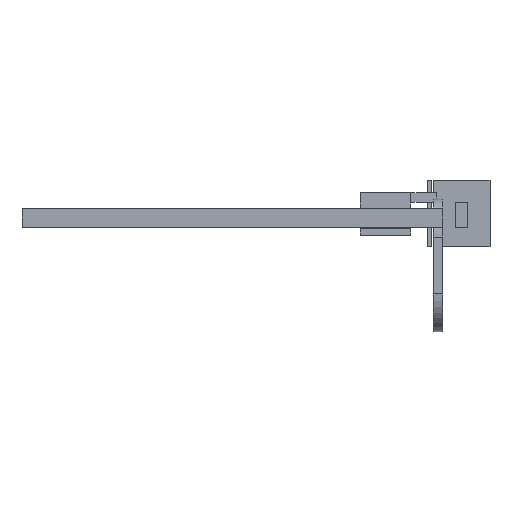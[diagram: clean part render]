
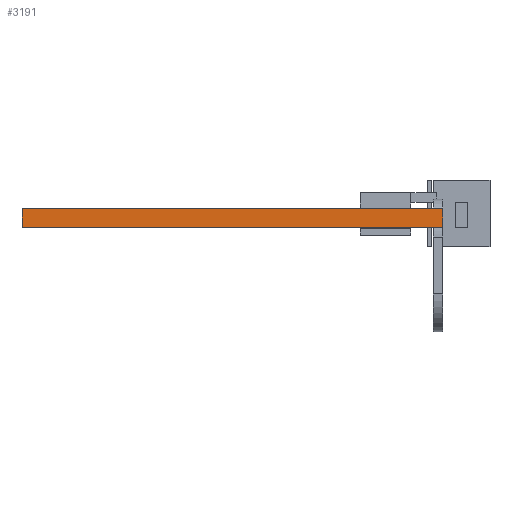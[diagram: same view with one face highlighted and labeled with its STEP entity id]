
A CAD part, left-side view. The second image highlights one B-rep face of the part: STEP entity #3191.
In plain terms, the highlighted planar face has unit normal (-1, 0, 0).
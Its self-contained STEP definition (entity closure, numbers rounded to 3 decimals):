
#2584 = VERTEX_POINT('',#2585);
#2585 = CARTESIAN_POINT('',(-72.5,0.,18.));
#2591 = EDGE_CURVE('',#2592,#2584,#2594,.T.);
#2592 = VERTEX_POINT('',#2593);
#2593 = CARTESIAN_POINT('',(-72.5,0.,12.));
#2594 = LINE('',#2595,#2596);
#2595 = CARTESIAN_POINT('',(-72.5,0.,12.));
#2596 = VECTOR('',#2597,1.);
#2597 = DIRECTION('',(0.,0.,1.));
#3165 = VERTEX_POINT('',#3166);
#3166 = CARTESIAN_POINT('',(-72.5,133.,12.));
#3172 = EDGE_CURVE('',#3165,#3173,#3175,.T.);
#3173 = VERTEX_POINT('',#3174);
#3174 = CARTESIAN_POINT('',(-72.5,133.,18.));
#3175 = LINE('',#3176,#3177);
#3176 = CARTESIAN_POINT('',(-72.5,133.,12.));
#3177 = VECTOR('',#3178,1.);
#3178 = DIRECTION('',(0.,0.,1.));
#3191 = ADVANCED_FACE('',(#3192),#3208,.F.);
#3192 = FACE_BOUND('',#3193,.F.);
#3193 = EDGE_LOOP('',(#3194,#3195,#3201,#3202));
#3194 = ORIENTED_EDGE('',*,*,#2591,.F.);
#3195 = ORIENTED_EDGE('',*,*,#3196,.T.);
#3196 = EDGE_CURVE('',#2592,#3165,#3197,.T.);
#3197 = LINE('',#3198,#3199);
#3198 = CARTESIAN_POINT('',(-72.5,0.,12.));
#3199 = VECTOR('',#3200,1.);
#3200 = DIRECTION('',(0.,1.,0.));
#3201 = ORIENTED_EDGE('',*,*,#3172,.T.);
#3202 = ORIENTED_EDGE('',*,*,#3203,.F.);
#3203 = EDGE_CURVE('',#2584,#3173,#3204,.T.);
#3204 = LINE('',#3205,#3206);
#3205 = CARTESIAN_POINT('',(-72.5,0.,18.));
#3206 = VECTOR('',#3207,1.);
#3207 = DIRECTION('',(0.,1.,0.));
#3208 = PLANE('',#3209);
#3209 = AXIS2_PLACEMENT_3D('',#3210,#3211,#3212);
#3210 = CARTESIAN_POINT('',(-72.5,0.,12.));
#3211 = DIRECTION('',(1.,0.,0.));
#3212 = DIRECTION('',(0.,0.,1.));
